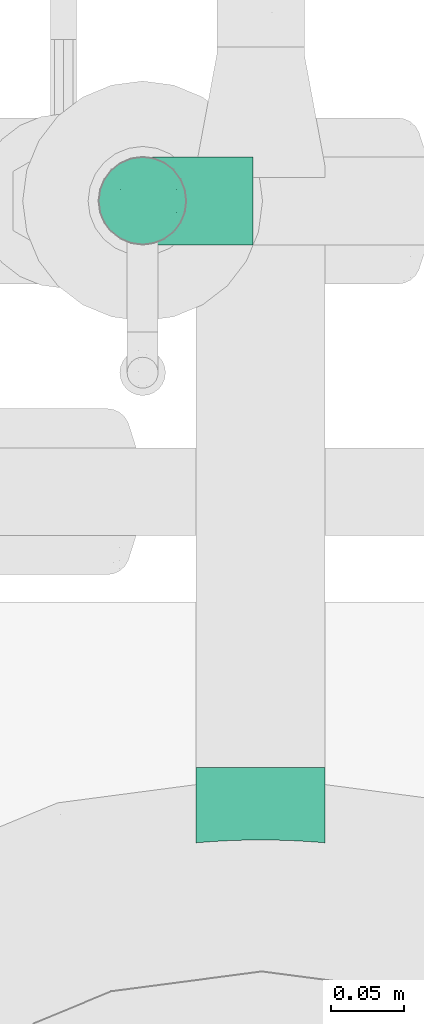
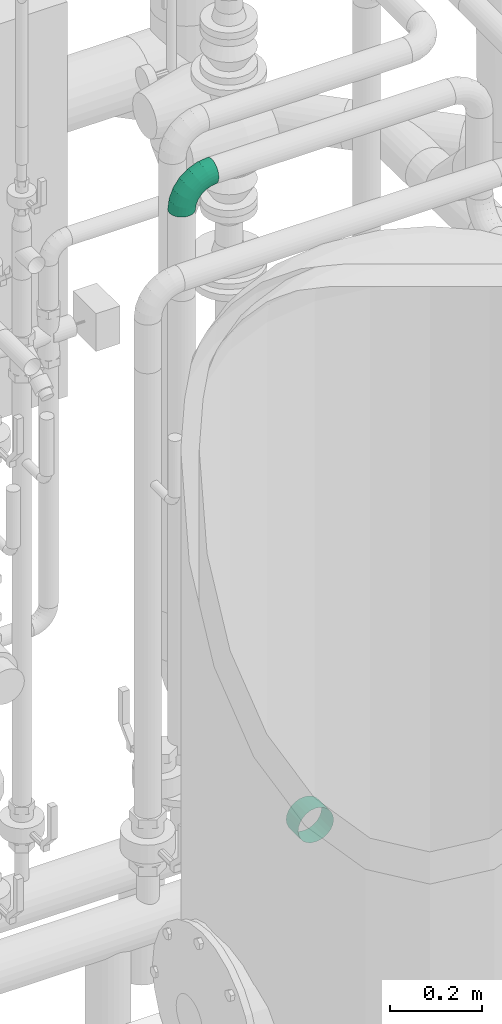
# One storey, part 110 of 374: 2 flow segments.
"""IFC2X3 building model written with IfcOpenShell, lengths in metres."""

from ifc_helpers import new_model, si_unit, direction, origin, place, context, subcontext, project, spatial, open_shell, surface_model, source, transform, mapped, element, save


model = new_model("IFC2X3")

# Units and contexts
model_context = context("Model", 3, precision=1e-05, world=origin(), true_north=direction((-0.4480736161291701, 0.8939966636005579)))
body_context = subcontext(model_context, "Body", "Model", "MODEL_VIEW")
ifc_project = project(units=[si_unit("LENGTHUNIT", "METRE"), si_unit("AREAUNIT", "SQUARE_METRE"), si_unit("VOLUMEUNIT", "CUBIC_METRE"), si_unit("PLANEANGLEUNIT", "RADIAN"), si_unit("THERMODYNAMICTEMPERATUREUNIT", "KELVIN"), si_unit("MASSUNIT", "GRAM", prefix="KILO"), si_unit("TIMEUNIT", "SECOND")], contexts=[model_context])

# Site, building, storey
site_placement = place(None, origin())
site = spatial("IfcSite", under=ifc_project, at=site_placement, Name="Site 1", CompositionType="ELEMENT")
building_placement = place(site_placement, origin())
building = spatial("IfcBuilding", under=site, at=building_placement, Name="Undefined", CompositionType="ELEMENT")
storey_placement = place(building_placement, origin())
storey = spatial("IfcBuildingStorey", under=building, at=storey_placement, Name="Rez de chauss\x8ee", CompositionType="ELEMENT", Elevation=0.0)

# Flow segments
shared_shape_1 = source(origin(), body_context, "Body", "SurfaceModel", [
    surface_model("IfcFaceBasedSurfaceModel", [(0.027710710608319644, 4.4408921e-16, 0.0), (0.02757661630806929, 0.00786958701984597, 7.105427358e-15), (0.00013409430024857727, 0.00786958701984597, 0.0), (0.0, 0.0, 0.0), (-0.02637334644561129, 0.008788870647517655, -0.0070429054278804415), (-0.026766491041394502, 0.0009282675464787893, -0.007111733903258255), (-0.050139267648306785, 0.010564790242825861, -0.02064875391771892), (-0.050764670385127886, 0.0027215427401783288, -0.02085054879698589), (-0.06954406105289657, 0.013076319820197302, -0.03989032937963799), (-0.07035910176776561, 0.00525761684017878, -0.04028016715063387), (-0.0832653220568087, 0.01615230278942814, -0.06345635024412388), (-0.08421445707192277, 0.00836366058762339, -0.06407649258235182), (-0.09036796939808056, 0.019583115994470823, -0.08974083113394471), (-0.0913865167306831, 0.011828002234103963, -0.09061784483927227), (0.027183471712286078, 0.015466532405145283, -0.0020199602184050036), (0.0005272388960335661, 0.015466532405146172, -0.0020199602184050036), (-0.025220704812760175, 0.016359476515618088, -0.008861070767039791), (-0.048305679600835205, 0.018084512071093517, -0.02207708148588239), (-0.06715448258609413, 0.020524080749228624, -0.04076734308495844), (-0.0804825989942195, 0.023511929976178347, -0.06365814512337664), (-0.08738173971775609, 0.026844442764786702, -0.08918951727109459), (0.026558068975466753, 0.022273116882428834, -0.005922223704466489), (0.001152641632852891, 0.02227311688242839, -0.005922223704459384), (-0.02338711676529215, 0.023124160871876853, -0.012442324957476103), (-0.04538886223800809, 0.02476825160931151, -0.02503819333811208), (-0.06335321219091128, 0.027093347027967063, -0.042851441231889), (-0.07605592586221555, 0.029940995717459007, -0.06466812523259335), (-0.08263133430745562, 0.033117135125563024, -0.08900147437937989), (0.025743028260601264, 0.0278254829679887, -0.011440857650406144), (0.0019676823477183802, 0.027825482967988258, -0.011440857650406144), (-0.020997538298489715, 0.028621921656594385, -0.017542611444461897), (-0.04158759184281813, 0.03016052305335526, -0.029330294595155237), (-0.058399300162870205, 0.0323364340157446, -0.04600059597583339), (-0.07028697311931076, 0.03500136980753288, -0.06641746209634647), (-0.07644048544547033, 0.0379737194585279, -0.08918951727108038), (0.02479389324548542, 0.03174524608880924, -0.01819977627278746), (0.0029168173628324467, 0.03174524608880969, -0.01819977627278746), (-0.018214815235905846, 0.0324780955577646, -0.023814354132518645), (-0.03716091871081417, 0.033893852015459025, -0.034660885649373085), (-0.052630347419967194, 0.03589603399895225, -0.05000019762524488), (-0.06356888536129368, 0.03834819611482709, -0.06878694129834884), (-0.06923108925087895, 0.041083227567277, -0.0897408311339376), (0.023775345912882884, 0.03376528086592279, -0.02573837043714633), (0.003935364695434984, 0.03376528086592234, -0.02573837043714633), (-0.01522858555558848, 0.03442989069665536, -0.03083014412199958), (-0.0324105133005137, 0.03571381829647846, -0.040666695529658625), (-0.046439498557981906, 0.0375295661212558, -0.05457767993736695), (-0.05635948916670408, 0.039753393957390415, -0.07161508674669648), (-0.061494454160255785, 0.04223375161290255, -0.09061784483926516), (0.022756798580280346, 0.03374792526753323, -0.033542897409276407), (0.0049539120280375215, 0.033747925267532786, -0.033542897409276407), (-0.01224235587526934, 0.03434429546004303, -0.03811186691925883), (-0.027660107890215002, 0.035496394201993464, -0.04693843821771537), (-0.040248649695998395, 0.0371257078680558, -0.05942109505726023), (-0.04915009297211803, 0.039121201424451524, -0.07470916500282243), (-0.05375781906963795, 0.041346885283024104, -0.09176079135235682), (0.02180766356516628, 0.03169436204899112, -0.04108149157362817), (0.005903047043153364, 0.031694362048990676, -0.04108149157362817), (-0.00945963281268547, 0.03222714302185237, -0.045163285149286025), (-0.02323343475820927, 0.03325639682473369, -0.05304870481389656), (-0.034479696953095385, 0.034711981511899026, -0.06420037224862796), (-0.04243200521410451, 0.036494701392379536, -0.07785831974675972), (-0.04654842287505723, 0.03848306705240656, -0.09309178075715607), (0.020992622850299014, 0.02774453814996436, -0.0478404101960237), (0.006718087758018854, 0.027744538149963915, -0.0478404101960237), (-0.007070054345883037, 0.02822271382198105, -0.05150385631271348), (-0.019432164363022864, 0.0291464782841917, -0.0585810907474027), (-0.029525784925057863, 0.030452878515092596, -0.06858981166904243), (-0.03666305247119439, 0.032052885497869, -0.08084794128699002), (-0.04035757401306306, 0.03383746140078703, -0.09452010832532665), (0.020367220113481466, 0.022167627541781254, -0.05335904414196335), (0.0073434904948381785, 0.022167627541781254, -0.05335904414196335), (-0.00523646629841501, 0.02260390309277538, -0.05670148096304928), (-0.016515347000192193, 0.023446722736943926, -0.06315857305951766), (-0.025724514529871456, 0.02463864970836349, -0.07229028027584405), (-0.03223637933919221, 0.02609845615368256, -0.0834742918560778), (-0.03560716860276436, 0.027726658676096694, -0.09594843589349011), (0.019974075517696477, 0.01534368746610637, -0.05726130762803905), (0.007736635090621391, 0.01534368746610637, -0.05726130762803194), (-0.004083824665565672, 0.01575362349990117, -0.06040194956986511), (-0.014681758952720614, 0.01654555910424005, -0.06646920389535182), (-0.02333493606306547, 0.01766552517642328, -0.07504959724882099), (-0.029453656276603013, 0.01903719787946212, -0.08555839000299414), (-0.032620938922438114, 0.02056709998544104, -0.09727942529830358), (0.019839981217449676, 0.00773775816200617, -0.05928126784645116), (0.007870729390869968, 0.007737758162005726, -0.05928126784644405), (-0.003690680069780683, 0.008138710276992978, -0.062353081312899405), (-0.014056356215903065, 0.008913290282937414, -0.06828736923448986), (-0.022519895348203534, 0.01000871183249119, -0.07667971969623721), (-0.0285045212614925, 0.011350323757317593, -0.08695820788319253), (-0.03160239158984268, 0.012846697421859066, -0.09842237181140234), (0.019974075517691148, -0.00013182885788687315, -0.05928126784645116), (0.007736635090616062, -0.00013182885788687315, -0.05928126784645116), (-0.004083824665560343, 0.0002781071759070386, -0.062421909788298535), (-0.014681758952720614, 0.001070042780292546, -0.06848916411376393), (-0.02333493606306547, 0.0021900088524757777, -0.0770695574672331), (-0.029453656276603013, 0.0035616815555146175, -0.08757835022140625), (-0.032620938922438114, 0.005091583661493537, -0.09929938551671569), (0.020367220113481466, -0.007728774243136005, -0.057261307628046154), (0.0073434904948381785, -0.007728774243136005, -0.057261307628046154), (-0.00523646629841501, -0.00729249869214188, -0.06060374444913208), (-0.016515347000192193, -0.0064496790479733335, -0.06706083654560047), (-0.025724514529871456, -0.005257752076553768, -0.07619254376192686), (-0.03223637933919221, -0.0037979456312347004, -0.0873765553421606), (-0.03560716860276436, -0.0021697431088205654, -0.09985069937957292), (0.020992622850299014, -0.01453535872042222, -0.053359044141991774), (0.006718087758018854, -0.014535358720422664, -0.053359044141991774), (-0.007070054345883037, -0.01405718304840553, -0.05702249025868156), (-0.019432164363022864, -0.013133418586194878, -0.06409972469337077), (-0.029525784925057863, -0.011827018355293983, -0.07410844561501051), (-0.03666305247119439, -0.01022701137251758, -0.0863665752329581), (-0.04035757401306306, -0.008442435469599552, -0.10003874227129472), (0.02180766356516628, -0.020087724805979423, -0.04784041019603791), (0.005903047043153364, -0.020087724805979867, -0.04784041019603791), (-0.00945963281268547, -0.019554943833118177, -0.05192220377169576), (-0.02323343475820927, -0.018525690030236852, -0.0598076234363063), (-0.034479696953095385, -0.017070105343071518, -0.0709592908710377), (-0.04243200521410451, -0.015287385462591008, -0.08461723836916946), (-0.04654842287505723, -0.013299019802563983, -0.09985069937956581), (0.022756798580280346, -0.024007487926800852, -0.0410814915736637), (0.0049539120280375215, -0.024007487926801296, -0.0410814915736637), (-0.01224235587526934, -0.023411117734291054, -0.04565046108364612), (-0.027660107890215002, -0.022259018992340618, -0.054477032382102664), (-0.040248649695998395, -0.02062970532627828, -0.06695968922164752), (-0.04915009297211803, -0.018634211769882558, -0.08224775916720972), (-0.05375781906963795, -0.016408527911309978, -0.09929938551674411), (0.023775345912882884, -0.026027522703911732, -0.033542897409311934), (0.003935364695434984, -0.026027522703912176, -0.033542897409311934), (-0.01522858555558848, -0.025362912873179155, -0.038634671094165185), (-0.0324105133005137, -0.024078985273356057, -0.04847122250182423), (-0.046439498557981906, -0.02226323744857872, -0.062382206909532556), (-0.05635948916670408, -0.020039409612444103, -0.07941961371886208), (-0.061494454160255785, -0.01755905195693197, -0.09842237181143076), (0.02479389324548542, -0.02601016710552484, -0.02573837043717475), (0.0029168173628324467, -0.026010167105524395, -0.02573837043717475), (-0.018214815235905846, -0.025277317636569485, -0.031352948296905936), (-0.03716091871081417, -0.023861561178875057, -0.04219947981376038), (-0.052630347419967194, -0.021859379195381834, -0.05753879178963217), (-0.06356888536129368, -0.01940721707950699, -0.07632553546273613), (-0.06923108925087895, -0.01667218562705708, -0.0972794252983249), (0.025743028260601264, -0.023956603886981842, -0.018199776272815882), (0.0019676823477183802, -0.023956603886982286, -0.018199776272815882), (-0.020997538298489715, -0.02316016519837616, -0.024301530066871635), (-0.04158759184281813, -0.021621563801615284, -0.036089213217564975), (-0.058399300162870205, -0.019445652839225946, -0.05275951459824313), (-0.07028697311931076, -0.016780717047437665, -0.0731763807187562), (-0.07644048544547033, -0.013808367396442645, -0.09594843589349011), (0.026558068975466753, -0.020006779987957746, -0.011440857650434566), (0.001152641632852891, -0.02000677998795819, -0.01144085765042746), (-0.02338711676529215, -0.019155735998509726, -0.01796095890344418), (-0.04538886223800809, -0.01751164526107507, -0.030556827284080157), (-0.06335321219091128, -0.015186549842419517, -0.048370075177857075), (-0.07605592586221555, -0.012338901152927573, -0.07018675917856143), (-0.08263133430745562, -0.009162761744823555, -0.09452010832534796), (0.027183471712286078, -0.014429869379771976, -0.005922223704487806), (0.0005272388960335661, -0.014429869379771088, -0.005922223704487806), (-0.025220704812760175, -0.013536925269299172, -0.012763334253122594), (-0.048305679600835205, -0.011811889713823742, -0.02597934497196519), (-0.06715448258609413, -0.009372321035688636, -0.04466960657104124), (-0.0804825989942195, -0.006384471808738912, -0.06756040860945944), (-0.08738173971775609, -0.003051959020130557, -0.09309178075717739), (0.02757661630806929, -0.007605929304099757, -0.0020199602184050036), (0.00013409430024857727, -0.007605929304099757, -0.002019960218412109), (-0.02637334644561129, -0.006686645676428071, -0.00906286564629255), (-0.050139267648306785, -0.004910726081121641, -0.02266871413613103), (-0.06954406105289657, -0.0023991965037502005, -0.0419102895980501), (-0.0832653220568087, 0.0006767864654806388, -0.06547631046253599), (-0.09036796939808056, 0.004107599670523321, -0.09176079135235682)], [open_shell([[[0, 1, 2, 3]], [[3, 2, 4, 5]], [[5, 4, 6, 7]], [[7, 6, 8, 9]], [[9, 8, 10, 11]], [[11, 10, 12, 13]], [[1, 14, 15, 2]], [[2, 15, 16, 4]], [[4, 16, 17, 6]], [[6, 17, 18, 8]], [[8, 18, 19, 10]], [[10, 19, 20, 12]], [[14, 21, 22, 15]], [[15, 22, 23, 16]], [[16, 23, 24, 17]], [[17, 24, 25, 18]], [[18, 25, 26, 19]], [[19, 26, 27, 20]], [[21, 28, 29, 22]], [[22, 29, 30, 23]], [[23, 30, 31, 24]], [[24, 31, 32, 25]], [[25, 32, 33, 26]], [[26, 33, 34, 27]], [[28, 35, 36, 29]], [[29, 36, 37, 30]], [[30, 37, 38, 31]], [[31, 38, 39, 32]], [[32, 39, 40, 33]], [[33, 40, 41, 34]], [[35, 42, 43, 36]], [[36, 43, 44, 37]], [[37, 44, 45, 38]], [[38, 45, 46, 39]], [[39, 46, 47, 40]], [[40, 47, 48, 41]], [[42, 49, 50, 43]], [[43, 50, 51, 44]], [[44, 51, 52, 45]], [[45, 52, 53, 46]], [[46, 53, 54, 47]], [[47, 54, 55, 48]], [[49, 56, 57, 50]], [[50, 57, 58, 51]], [[51, 58, 59, 52]], [[52, 59, 60, 53]], [[53, 60, 61, 54]], [[54, 61, 62, 55]], [[56, 63, 64, 57]], [[57, 64, 65, 58]], [[58, 65, 66, 59]], [[59, 66, 67, 60]], [[60, 67, 68, 61]], [[61, 68, 69, 62]], [[63, 70, 71, 64]], [[64, 71, 72, 65]], [[65, 72, 73, 66]], [[66, 73, 74, 67]], [[67, 74, 75, 68]], [[68, 75, 76, 69]], [[70, 77, 78, 71]], [[71, 78, 79, 72]], [[72, 79, 80, 73]], [[73, 80, 81, 74]], [[74, 81, 82, 75]], [[75, 82, 83, 76]], [[77, 84, 85, 78]], [[78, 85, 86, 79]], [[79, 86, 87, 80]], [[80, 87, 88, 81]], [[81, 88, 89, 82]], [[82, 89, 90, 83]], [[84, 91, 92, 85]], [[85, 92, 93, 86]], [[86, 93, 94, 87]], [[87, 94, 95, 88]], [[88, 95, 96, 89]], [[89, 96, 97, 90]], [[91, 98, 99, 92]], [[92, 99, 100, 93]], [[93, 100, 101, 94]], [[94, 101, 102, 95]], [[95, 102, 103, 96]], [[96, 103, 104, 97]], [[98, 105, 106, 99]], [[99, 106, 107, 100]], [[100, 107, 108, 101]], [[101, 108, 109, 102]], [[102, 109, 110, 103]], [[103, 110, 111, 104]], [[105, 112, 113, 106]], [[106, 113, 114, 107]], [[107, 114, 115, 108]], [[108, 115, 116, 109]], [[109, 116, 117, 110]], [[110, 117, 118, 111]], [[112, 119, 120, 113]], [[113, 120, 121, 114]], [[114, 121, 122, 115]], [[115, 122, 123, 116]], [[116, 123, 124, 117]], [[117, 124, 125, 118]], [[119, 126, 127, 120]], [[120, 127, 128, 121]], [[121, 128, 129, 122]], [[122, 129, 130, 123]], [[123, 130, 131, 124]], [[124, 131, 132, 125]], [[126, 133, 134, 127]], [[127, 134, 135, 128]], [[128, 135, 136, 129]], [[129, 136, 137, 130]], [[130, 137, 138, 131]], [[131, 138, 139, 132]], [[133, 140, 141, 134]], [[134, 141, 142, 135]], [[135, 142, 143, 136]], [[136, 143, 144, 137]], [[137, 144, 145, 138]], [[138, 145, 146, 139]], [[140, 147, 148, 141]], [[141, 148, 149, 142]], [[142, 149, 150, 143]], [[143, 150, 151, 144]], [[144, 151, 152, 145]], [[145, 152, 153, 146]], [[147, 154, 155, 148]], [[148, 155, 156, 149]], [[149, 156, 157, 150]], [[150, 157, 158, 151]], [[151, 158, 159, 152]], [[152, 159, 160, 153]], [[154, 161, 162, 155]], [[155, 162, 163, 156]], [[156, 163, 164, 157]], [[157, 164, 165, 158]], [[158, 165, 166, 159]], [[159, 166, 167, 160]], [[161, 0, 3, 162]], [[162, 3, 5, 163]], [[163, 5, 7, 164]], [[164, 7, 9, 165]], [[165, 9, 11, 166]], [[166, 11, 13, 167]]])]),
])
flow_segment_1_placement = place(storey_placement, origin())
element("IfcFlowSegment", 1, at=flow_segment_1_placement, inside=storey, Name="Tube coudé", ObjectType="Tube coudé", context=body_context, shape_type="MappedRepresentation", body=[
    mapped(shared_shape_1, transform((54.2310289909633, 10.91803704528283, 2.0111153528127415), x_axis=(-0.13052619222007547, 0.0, -0.9914448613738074), y_axis=(0.12832103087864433, -0.9915887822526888, -0.016893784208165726), z_axis=(-0.9831056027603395, -0.12942830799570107, 0.1294283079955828))),
])
shared_shape_2 = source(origin(), body_context, "Body", "SurfaceModel", [
    surface_model("IfcFaceBasedSurfaceModel", [(0.0, 0.011603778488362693, 2.22044605e-16), (0.0, 0.0, 0.0), (0.05013237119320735, 0.0, 0.0), (0.05000000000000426, 0.011603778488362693, 2.22044605e-16), (0.0, -0.01120838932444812, -0.003003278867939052), (0.050494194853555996, -0.01120838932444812, -0.003003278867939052), (0.0, -0.021257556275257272, -0.008805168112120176), (0.05098887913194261, -0.021257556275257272, -0.008805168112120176), (0.0, -0.029462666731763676, -0.017010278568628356), (0.0514840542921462, -0.029462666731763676, -0.017010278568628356), (0.0, -0.035264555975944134, -0.02705944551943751), (0.051846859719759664, -0.035264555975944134, -0.02705944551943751), (0.0, -0.03826783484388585, -0.038267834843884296), (0.05197972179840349, -0.03826783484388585, -0.038267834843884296), (0.0, -0.038267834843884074, -0.04987161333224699), (0.051846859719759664, -0.038267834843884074, -0.04987161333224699), (0.0, -0.03526455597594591, -0.06108000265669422), (0.0514840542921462, -0.03526455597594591, -0.06108000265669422), (0.0, -0.029462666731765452, -0.07112916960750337), (0.05098887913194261, -0.029462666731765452, -0.07112916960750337), (0.0, -0.021257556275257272, -0.07933428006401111), (0.050494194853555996, -0.021257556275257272, -0.07933428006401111), (0.0, -0.011208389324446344, -0.08513616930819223), (0.05013237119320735, -0.011208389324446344, -0.08513616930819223), (0.0, 0.0, -0.08813944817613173), (0.05000000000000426, 0.0, -0.08813944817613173), (0.0, 0.011603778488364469, -0.08813944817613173), (0.05013237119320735, 0.011603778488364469, -0.08813944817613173), (0.0, 0.022812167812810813, -0.08513616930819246), (0.050494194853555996, 0.022812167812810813, -0.08513616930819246), (0.0, 0.03286133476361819, -0.07933428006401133), (0.05098887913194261, 0.03286133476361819, -0.07933428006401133), (0.0, 0.04106644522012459, -0.07112916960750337), (0.0514840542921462, 0.04106644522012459, -0.07112916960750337), (0.0, 0.0468683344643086, -0.06108000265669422), (0.051846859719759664, 0.0468683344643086, -0.06108000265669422), (0.0, 0.04987161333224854, -0.04987161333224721), (0.05197972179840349, 0.04987161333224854, -0.04987161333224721), (0.0, 0.04987161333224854, -0.03826783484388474), (0.051846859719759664, 0.04987161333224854, -0.03826783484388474), (0.0, 0.04686833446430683, -0.02705944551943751), (0.0514840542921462, 0.04686833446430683, -0.02705944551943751), (0.0, 0.04106644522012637, -0.017010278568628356), (0.05098887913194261, 0.04106644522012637, -0.017010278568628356), (0.0, 0.032861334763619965, -0.00880516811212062), (0.050494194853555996, 0.032861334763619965, -0.00880516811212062), (0.0, 0.022812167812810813, -0.003003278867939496), (0.05013237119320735, 0.022812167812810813, -0.003003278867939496)], [open_shell([[[0, 1, 2, 3]], [[1, 4, 5, 2]], [[4, 6, 7, 5]], [[6, 8, 9, 7]], [[8, 10, 11, 9]], [[10, 12, 13, 11]], [[12, 14, 15, 13]], [[14, 16, 17, 15]], [[16, 18, 19, 17]], [[18, 20, 21, 19]], [[20, 22, 23, 21]], [[22, 24, 25, 23]], [[24, 26, 27, 25]], [[26, 28, 29, 27]], [[28, 30, 31, 29]], [[30, 32, 33, 31]], [[32, 34, 35, 33]], [[34, 36, 37, 35]], [[36, 38, 39, 37]], [[38, 40, 41, 39]], [[40, 42, 43, 41]], [[42, 44, 45, 43]], [[44, 46, 47, 45]], [[46, 0, 3, 47]]])]),
])
flow_segment_2_placement = place(storey_placement, origin())
element("IfcFlowSegment", 2, at=flow_segment_2_placement, inside=storey, Name="Piquage sur circulaire 90°", ObjectType="Piquage sur circulaire 90°", context=body_context, shape_type="MappedRepresentation", body=[
    mapped(shared_shape_2, transform((54.327226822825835, 10.528379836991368, 0.6350258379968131), x_axis=(0.0, -1.0, 0.0), y_axis=(0.9914448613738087, 0.0, 0.13052619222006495), z_axis=(-0.13052619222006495, 0.0, 0.9914448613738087))),
])

save(model, "model.ifc")
